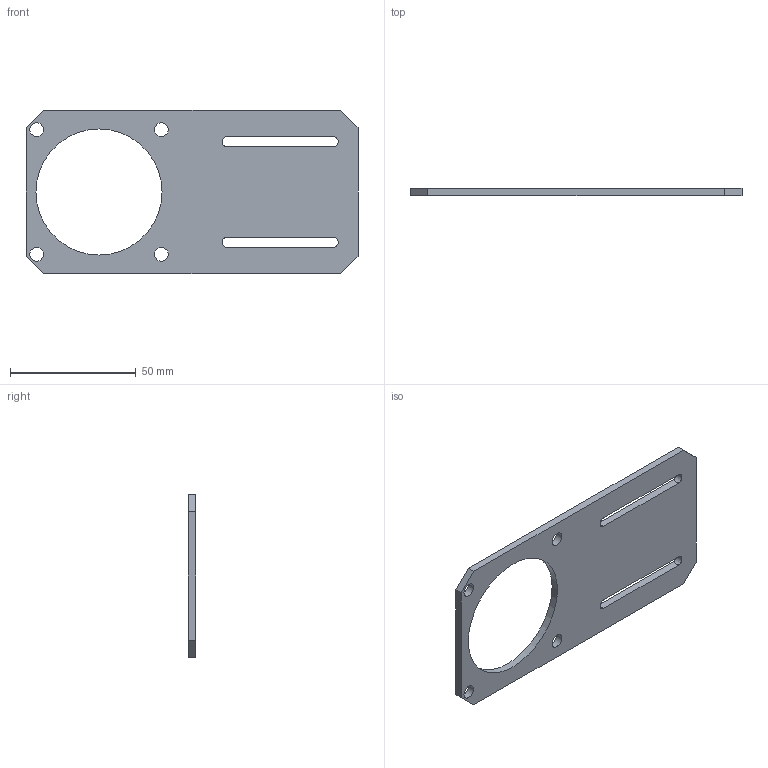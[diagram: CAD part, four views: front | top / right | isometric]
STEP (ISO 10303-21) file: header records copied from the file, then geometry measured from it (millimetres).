
FILE_DESCRIPTION(/* description */ (''),/* implementation_level */ '2;1');
FILE_NAME(/* name */ 'C:\Users\Lukas\Documents\Inventor\Rocketronics Teile\NEMA 24 gerade.stp',/* time_stamp */ '2026-03-17T17:08:19+01:00',/* author */ ('Lukas'),/* organization */ (''),/* preprocessor_version */ 'ST-DEVELOPER v19',/* originating_system */ 'Autodesk Inventor 2023',/* authorisation */ '');
FILE_SCHEMA (('AUTOMOTIVE_DESIGN { 1 0 10303 214 3 1 1 }'));
Length unit declared in the file: millimetre
Products named in the file (1): NEMA 24 gerade
Bounding box: 132 x 3 x 65 mm (x, y, z)
Volume: 18126.3 mm3; surface area: 14476.2 mm2
Topology: 1 solids, 1 shells, 23 faces, 63 edges, 42 vertices
Faces by surface type: plane 14, cylinder 9
Full cylindrical faces by diameter (mm): 5.45 x4, 50.1 x1
Entity records: 806 total; most frequent: DIRECTION 129, CARTESIAN_POINT 129, ORIENTED_EDGE 126, EDGE_CURVE 63, LINE 45, VECTOR 45, VERTEX_POINT 42, AXIS2_PLACEMENT_3D 42
